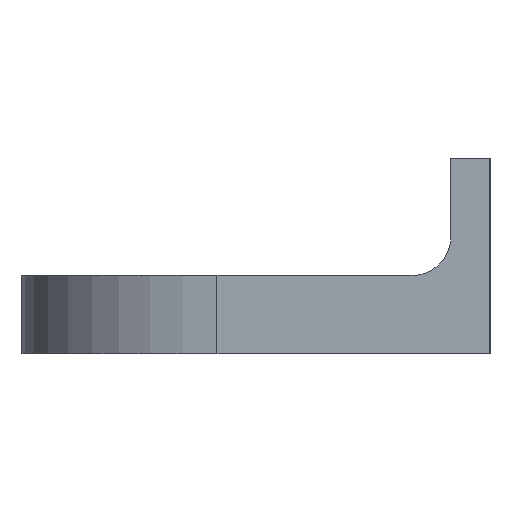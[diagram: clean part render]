
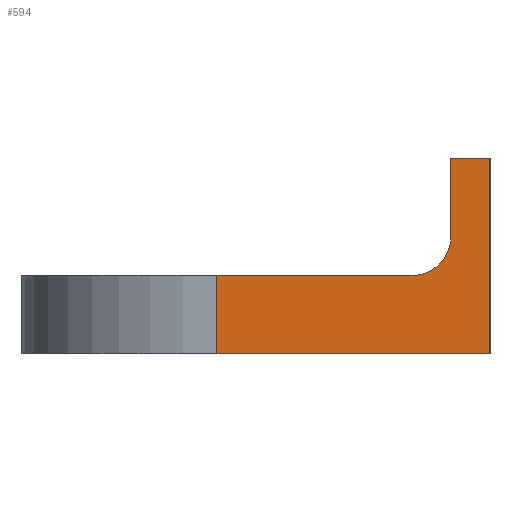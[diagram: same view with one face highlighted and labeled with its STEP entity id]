
A CAD part, left-side view. The second image highlights one B-rep face of the part: STEP entity #594.
In plain terms, the highlighted planar face has unit normal (-1, 0, 0).
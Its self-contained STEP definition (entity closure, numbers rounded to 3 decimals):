
#81=CIRCLE('',#622,5.);
#107=ORIENTED_EDGE('',*,*,#217,.F.);
#108=ORIENTED_EDGE('',*,*,#206,.T.);
#109=ORIENTED_EDGE('',*,*,#218,.F.);
#110=ORIENTED_EDGE('',*,*,#219,.T.);
#111=ORIENTED_EDGE('',*,*,#220,.T.);
#112=ORIENTED_EDGE('',*,*,#221,.T.);
#113=ORIENTED_EDGE('',*,*,#222,.F.);
#206=EDGE_CURVE('',#261,#262,#299,.T.);
#217=EDGE_CURVE('',#261,#272,#309,.T.);
#218=EDGE_CURVE('',#273,#262,#310,.T.);
#219=EDGE_CURVE('',#273,#274,#81,.F.);
#220=EDGE_CURVE('',#274,#275,#311,.T.);
#221=EDGE_CURVE('',#275,#276,#312,.T.);
#222=EDGE_CURVE('',#272,#276,#313,.T.);
#261=VERTEX_POINT('',#805);
#262=VERTEX_POINT('',#806);
#272=VERTEX_POINT('',#829);
#273=VERTEX_POINT('',#831);
#274=VERTEX_POINT('',#833);
#275=VERTEX_POINT('',#835);
#276=VERTEX_POINT('',#837);
#299=LINE('',#804,#338);
#309=LINE('',#828,#348);
#310=LINE('',#830,#349);
#311=LINE('',#834,#350);
#312=LINE('',#836,#351);
#313=LINE('',#838,#352);
#338=VECTOR('',#675,1000.);
#348=VECTOR('',#691,1000.);
#349=VECTOR('',#692,1000.);
#350=VECTOR('',#695,1000.);
#351=VECTOR('',#696,1000.);
#352=VECTOR('',#697,1000.);
#379=EDGE_LOOP('',(#107,#108,#109,#110,#111,#112,#113));
#406=FACE_BOUND('',#379,.T.);
#433=PLANE('',#621);
#594=ADVANCED_FACE('',(#406),#433,.T.);
#621=AXIS2_PLACEMENT_3D('',#827,#689,#690);
#622=AXIS2_PLACEMENT_3D('',#832,#693,#694);
#675=DIRECTION('',(0.,1.,0.));
#689=DIRECTION('',(-1.,0.,0.));
#690=DIRECTION('',(0.,0.,1.));
#691=DIRECTION('',(0.,0.,-1.));
#692=DIRECTION('',(0.,0.,1.));
#693=DIRECTION('',(-1.,0.,0.));
#694=DIRECTION('',(0.,0.,1.));
#695=DIRECTION('',(0.,1.,0.));
#696=DIRECTION('',(0.,0.,-1.));
#697=DIRECTION('',(0.,1.,0.));
#804=CARTESIAN_POINT('',(0.,0.,25.));
#805=CARTESIAN_POINT('',(0.,0.,25.));
#806=CARTESIAN_POINT('',(0.,5.,25.));
#827=CARTESIAN_POINT('',(0.,0.,50.));
#828=CARTESIAN_POINT('',(0.,0.,50.));
#829=CARTESIAN_POINT('',(0.,0.,0.));
#830=CARTESIAN_POINT('',(0.,5.,50.));
#831=CARTESIAN_POINT('',(0.,5.,15.));
#832=CARTESIAN_POINT('',(0.,10.,15.));
#833=CARTESIAN_POINT('',(0.,10.,10.));
#834=CARTESIAN_POINT('',(0.,0.,10.));
#835=CARTESIAN_POINT('',(0.,35.,10.));
#836=CARTESIAN_POINT('',(0.,35.,50.));
#837=CARTESIAN_POINT('',(0.,35.,0.));
#838=CARTESIAN_POINT('',(0.,0.,0.));
